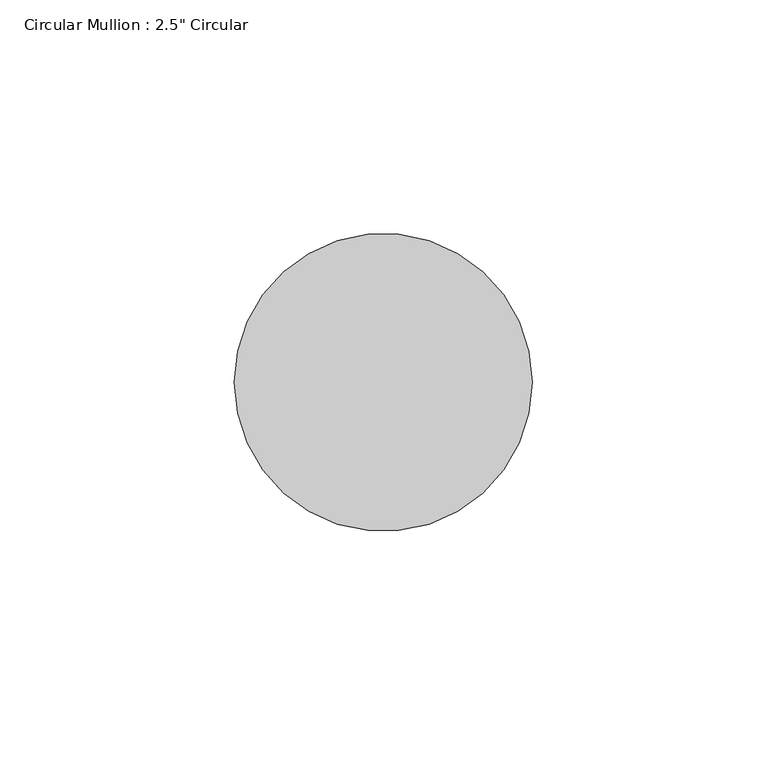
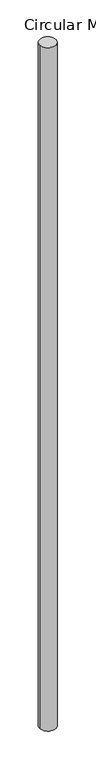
"""IFC4 building model written with IfcOpenShell, lengths in millimetres: member geometry."""

import ifcopenshell
import ifcopenshell.guid

model = None  # the IFC model being written
_history = None  # IfcOwnerHistory: only IFC2X3 demands one
_inside = {}  # id of a spatial element -> (the spatial element, [elements in it])
_under = {}  # id of a project, library or spatial element -> (it, [spatial elements below it])
_declared = {}  # id of a project -> (the project, [libraries it declares])
_typed = {}  # id of a type object -> (the type object, [elements of that type])
_made_of = {}  # id of a material, layer set ... -> (it, [elements and type objects made of it])


def new_model(schema):
    """Start an empty IFC model of exactly this schema.

    Asked for "IFC4X3", IfcOpenShell would pick the latest addendum, in which some entities
    have other attributes; the version numbers below select the first issue.
    IFC2X3 requires an IfcOwnerHistory on every rooted entity: one is made here for all.
    """
    global model, _history
    if schema == "IFC4X3":
        model = ifcopenshell.file(schema_version=(4, 3, 0, 0))
    else:
        model = ifcopenshell.file(schema=schema)
    _inside.clear()
    _under.clear()
    _declared.clear()
    _typed.clear()
    _made_of.clear()
    _history = None
    if model.schema == "IFC2X3":
        org = make("IfcOrganization", Name="unknown")
        user = make(
            "IfcPersonAndOrganization",
            ThePerson=make("IfcPerson", FamilyName="unknown"),
            TheOrganization=org,
        )
        app = make(
            "IfcApplication",
            ApplicationDeveloper=org,
            Version="unknown",
            ApplicationFullName="unknown",
            ApplicationIdentifier="unknown",
        )
        _history = make(
            "IfcOwnerHistory",
            OwningUser=user,
            OwningApplication=app,
            ChangeAction="ADDED",
            CreationDate=0,
        )
    return model


def make(cls, **values):
    """One entity of the class cls with the attributes given. An attribute that is None is left unset."""
    return model.create_entity(
        cls, **{name: value for name, value in values.items() if value is not None}
    )


def rooted(cls, **values):
    """An entity with a GlobalId (a new one), such as an element, a storey or a relation."""
    return make(cls, GlobalId=ifcopenshell.guid.new(), OwnerHistory=_history, **values)


def si_unit(unit_type, name, prefix=None):
    """IfcSIUnit, for example si_unit("LENGTHUNIT", "METRE", prefix="MILLI")."""
    return make("IfcSIUnit", UnitType=unit_type, Prefix=prefix, Name=name)


def assignment(units):
    """IfcUnitAssignment: the units of a project."""
    return None if units is None else make("IfcUnitAssignment", Units=units)


def point(xyz):
    """IfcCartesianPoint."""
    return None if xyz is None else make("IfcCartesianPoint", Coordinates=xyz)


def direction(xyz):
    """IfcDirection."""
    return None if xyz is None else make("IfcDirection", DirectionRatios=xyz)


def frame(location, z_axis=None, x_axis=None):
    """IfcAxis2Placement3D, a coordinate frame: its origin and axes. An axis left out is left unset."""
    return make(
        "IfcAxis2Placement3D",
        Location=point(location),
        Axis=direction(z_axis),
        RefDirection=direction(x_axis),
    )


def frame_2d(location, x_axis=None):
    """IfcAxis2Placement2D, a coordinate frame in the plane: its origin and x axis."""
    return make(
        "IfcAxis2Placement2D", Location=point(location), RefDirection=direction(x_axis)
    )


def origin():
    """The frame at (0, 0, 0) with its axes left unset."""
    return frame((0.0, 0.0, 0.0))


def origin_2d():
    """The frame at (0, 0) in the plane with its x axis left unset."""
    return frame_2d((0.0, 0.0))


def place(relative_to, where):
    """IfcLocalPlacement: puts the frame where relative to a parent placement (None: the world)."""
    return make(
        "IfcLocalPlacement", PlacementRelTo=relative_to, RelativePlacement=where
    )


def context(
    kind, dimensions, precision=None, world=None, true_north=None, identifier=None
):
    """IfcGeometricRepresentationContext, for example the 3D "Model" context."""
    return make(
        "IfcGeometricRepresentationContext",
        ContextIdentifier=identifier,
        ContextType=kind,
        CoordinateSpaceDimension=dimensions,
        Precision=precision,
        WorldCoordinateSystem=world,
        TrueNorth=true_north,
    )


def project(units=None, contexts=None):
    """IfcProject with its units and contexts."""
    return rooted(
        "IfcProject",
        Name="project",
        RepresentationContexts=contexts,
        UnitsInContext=assignment(units),
    )


def spatial(cls, under=None, at=None, **own):
    """A site, building, storey or space (cls), placed at a placement, below another one or the project."""
    s = rooted(cls, ObjectPlacement=at, **own)
    if under is not None:
        _under.setdefault(under.id(), (under, []))[1].append(s)
    return s


def circle_curve(where, radius):
    """IfcCircle in the frame where."""
    return make("IfcCircle", Position=where, Radius=radius)


def trimmed(basis, trim1, trim2, sense, master):
    """IfcTrimmedCurve: the piece of a basis curve between two trims."""
    return make(
        "IfcTrimmedCurve",
        BasisCurve=basis,
        Trim1=trim1,
        Trim2=trim2,
        SenseAgreement=sense,
        MasterRepresentation=master,
    )


def segment(curve, same_sense, transition):
    """IfcCompositeCurveSegment."""
    return make(
        "IfcCompositeCurveSegment",
        Transition=transition,
        SameSense=same_sense,
        ParentCurve=curve,
    )


def composite_curve(segments, self_intersect=None):
    """IfcCompositeCurve: segments joined end to end."""
    return make("IfcCompositeCurve", Segments=segments, SelfIntersect=self_intersect)


def outline(outer, holes=None, kind="AREA"):
    """IfcArbitraryClosedProfileDef: a profile drawn as a closed curve; with holes, ...WithVoids."""
    if holes is None:
        return make("IfcArbitraryClosedProfileDef", ProfileType=kind, OuterCurve=outer)
    return make(
        "IfcArbitraryProfileDefWithVoids",
        ProfileType=kind,
        OuterCurve=outer,
        InnerCurves=holes,
    )


def extrude(swept, where, along, depth):
    """IfcExtrudedAreaSolid: the profile swept, set in the frame where, extruded along a direction by depth."""
    return make(
        "IfcExtrudedAreaSolid",
        SweptArea=swept,
        Position=where,
        ExtrudedDirection=direction(along),
        Depth=depth,
    )


def shape(context_of_items, identifier, shape_type, items):
    """IfcShapeRepresentation: the items that make up one representation, for example the "Body"."""
    return make(
        "IfcShapeRepresentation",
        ContextOfItems=context_of_items,
        RepresentationIdentifier=identifier,
        RepresentationType=shape_type,
        Items=items,
    )


def source(mapping_origin, context_of_items, identifier, shape_type, items):
    """IfcRepresentationMap: a shape defined once, which mapped items show again and again."""
    return make(
        "IfcRepresentationMap",
        MappingOrigin=mapping_origin,
        MappedRepresentation=shape(context_of_items, identifier, shape_type, items),
    )


def transform(
    local_origin,
    x_axis=None,
    y_axis=None,
    z_axis=None,
    scale=None,
    scale2=None,
    scale3=None,
    uniform=True,
):
    """IfcCartesianTransformationOperator3D, or its non-uniform kind. x_axis, y_axis, z_axis: its Axis1, 2, 3."""
    if uniform:
        return make(
            "IfcCartesianTransformationOperator3D",
            Axis1=direction(x_axis),
            Axis2=direction(y_axis),
            LocalOrigin=point(local_origin),
            Scale=scale,
            Axis3=direction(z_axis),
        )
    return make(
        "IfcCartesianTransformationOperator3DnonUniform",
        Axis1=direction(x_axis),
        Axis2=direction(y_axis),
        LocalOrigin=point(local_origin),
        Scale=scale,
        Axis3=direction(z_axis),
        Scale2=scale2,
        Scale3=scale3,
    )


def mapped(mapping_source, mapping_target):
    """IfcMappedItem: shows the shape of a source again, moved by a transform."""
    return make(
        "IfcMappedItem", MappingSource=mapping_source, MappingTarget=mapping_target
    )


def made_of(thing, what):
    """Note that an element or type object is made of a material, layer set ...; save() writes the relation."""
    if what is not None:
        _made_of.setdefault(what.id(), (what, []))[1].append(thing)
    return thing


def element(
    cls,
    number,
    at=None,
    inside=None,
    cuts=None,
    type_object=None,
    material=None,
    context=None,
    identifier="Body",
    shape_type=None,
    held_by="IfcProductDefinitionShape",
    body=None,
    shapes=None,
    **own,
):
    """One element of the class cls, such as IfcWall. Its Tag is "e" and its number.

    at: its placement. inside: the storey or other place that contains it. cuts: it is an
    opening in that element (IfcRelVoidsElement). A single representation is given by context,
    identifier, shape_type and body (its items); several are given by shapes. held_by: the class
    of the entity that holds the representations. save() writes the other relations.
    """
    e = rooted(cls, Tag="e%d" % number, ObjectPlacement=at, **own)
    if body is not None:
        shapes = [shape(context, identifier, shape_type, body)]
    if shapes is not None:
        e.Representation = make(held_by, Representations=shapes)
    if inside is not None:
        _inside.setdefault(inside.id(), (inside, []))[1].append(e)
    if cuts is not None:
        rooted(
            "IfcRelVoidsElement", RelatingBuildingElement=cuts, RelatedOpeningElement=e
        )
    if type_object is not None:
        _typed.setdefault(type_object.id(), (type_object, []))[1].append(e)
    return made_of(e, material)


def aggregate(whole, parts):
    """IfcRelAggregates: a whole, such as a stair, and the parts it consists of."""
    return rooted("IfcRelAggregates", RelatingObject=whole, RelatedObjects=parts)


def save(model, path):
    """Write the relations noted so far, then the file.

    IfcRelAggregates (storeys below a building ...), IfcRelContainedInSpatialStructure (elements
    in a storey), IfcRelDefinesByType, IfcRelAssociatesMaterial and IfcRelDeclares: one each for
    every whole, place, type object, material and project.
    """
    for whole, parts in _under.values():
        aggregate(whole, parts)
    for where, things in _inside.values():
        rooted(
            "IfcRelContainedInSpatialStructure",
            RelatedElements=things,
            RelatingStructure=where,
        )
    for kind, things in _typed.values():
        rooted("IfcRelDefinesByType", RelatedObjects=things, RelatingType=kind)
    for what, things in _made_of.values():
        rooted("IfcRelAssociatesMaterial", RelatedObjects=things, RelatingMaterial=what)
    for by, libraries in _declared.values():
        rooted("IfcRelDeclares", RelatingContext=by, RelatedDefinitions=libraries)
    model.write(path)


def member_daf9717a(model_context):
    return source(origin(), model_context, "Body", "SweptSolid", [
        extrude(outline(composite_curve([segment(trimmed(circle_curve(origin_2d(), 31.75), [point((31.75, 0.0))], [point((-31.75, 0.0))], False, "CARTESIAN"), True, "CONTINUOUS"), segment(trimmed(circle_curve(origin_2d(), 31.75), [point((-31.75, 0.0))], [point((31.75, 0.0))], False, "CARTESIAN"), True, "CONTINUOUS")], self_intersect=False)), frame((0.0, 0.0, -2799.4145308), z_axis=(0.0, 0.0, 1.0), x_axis=(1.0, 0.0, 0.0)), (0.0, 0.0, 1.0), 2799.4145308),
    ])


if __name__ == "__main__":
    model = new_model("IFC4")
    model_context = context("Model", 3, world=origin())
    ifc_project = project(units=[si_unit("LENGTHUNIT", "METRE", prefix="MILLI")], contexts=[model_context])
    site = spatial("IfcSite", under=ifc_project)
    building = spatial("IfcBuilding", under=site)
    placement = place(None, origin())
    member_shape = member_daf9717a(model_context)
    element("IfcMember", 1, ObjectType="Circular Mullion : 2.5\" Circular", at=placement, inside=building, context=model_context, shape_type="MappedRepresentation", body=[
        mapped(member_shape, transform((0.0, 0.0, 0.0), x_axis=(1.0, 0.0, 0.0), y_axis=(0.0, 1.0, 0.0), z_axis=(0.0, 0.0, 1.0))),
    ])
    save(model, "model.ifc")
